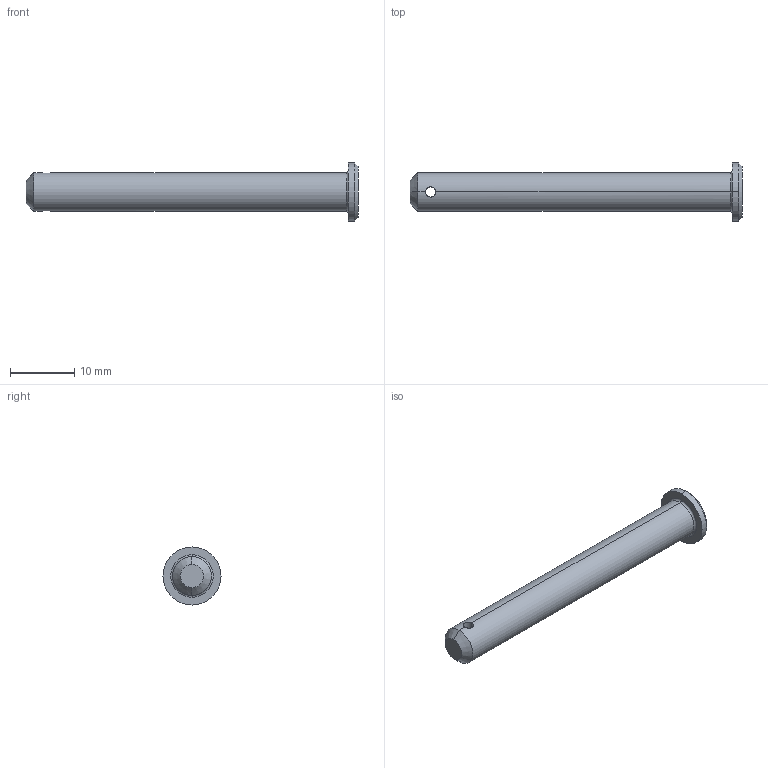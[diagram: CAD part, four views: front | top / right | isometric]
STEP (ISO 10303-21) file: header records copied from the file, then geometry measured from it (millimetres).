
FILE_DESCRIPTION (( 'STEP AP203' ), '1' );
FILE_NAME ('Wiberger-sms2360_6x50.step', '2012-10-09T08:58:38', ( 'Magnus' ), ( 'Wiberger' ), 'SwSTEP 2.0', 'SolidWorks 2011', '' );
FILE_SCHEMA (( 'CONFIG_CONTROL_DESIGN' ));
Length unit declared in the file: millimetre
Products named in the file (1): Wiberger-sms2360_6x50
Bounding box: 51.5 x 9 x 9 mm (x, y, z)
Volume: 1482.4 mm3; surface area: 1111.6 mm2
Topology: 1 solids, 1 shells, 15 faces, 32 edges, 18 vertices
Faces by surface type: cylinder 6, cone 4, plane 3, torus 2
Entity records: 539 total; most frequent: CARTESIAN_POINT 130, DIRECTION 76, ORIENTED_EDGE 64, EDGE_CURVE 32, AXIS2_PLACEMENT_3D 32, VERTEX_POINT 18, EDGE_LOOP 16, CIRCLE 16
